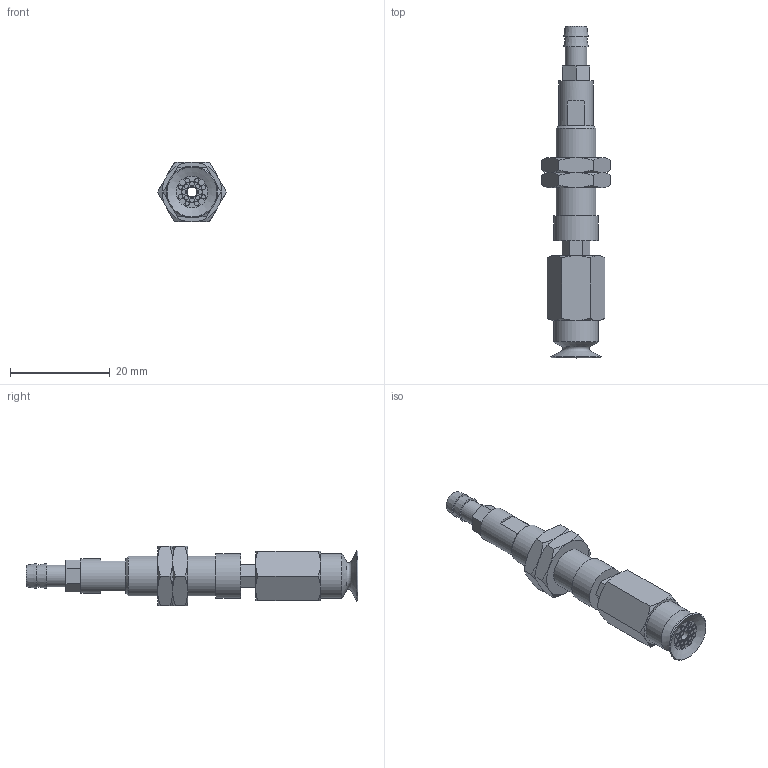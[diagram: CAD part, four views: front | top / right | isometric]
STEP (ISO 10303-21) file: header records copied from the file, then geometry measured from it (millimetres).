
FILE_DESCRIPTION(('STEP AP203'),'1');
FILE_NAME('-T.stp','2025-08-11T08:21:36',(' '),(' '),'Spatial InterOp 3D',' ',' ');
FILE_SCHEMA(('CONFIG_CONTROL_DESIGN'));
Length unit declared in the file: millimetre
Products named in the file (7): BNABPATH-10A-3-※-T; NAPATH-10A-3--F; Nut-10A-S; CONNECTOR-10A-3-T-PA; BPAG-10A-※; ADAPTER; NAPATH-10A-3--M
Assembly tree (7 placements, depth 2):
  BNABPATH-10A-3-※-T
    NAPATH-10A-3--F
    Nut-10A-S  x2
    CONNECTOR-10A-3-T-PA
    BPAG-10A-※
    ADAPTER
    NAPATH-10A-3--M
Bounding box: 13.86 x 66.5 x 12 mm (x, y, z)
Volume: 3555.2 mm3; surface area: 4405.7 mm2
Topology: 7 solids, 7 shells, 173 faces, 347 edges, 215 vertices
Faces by surface type: plane 81, cone 49, cylinder 33, torus 10
Full cylindrical faces by diameter (mm): 0.9 x16, 2 x3, 3 x1, 4 x2, 4.134 x1, 4.3 x1, 5 x1, 6 x2, 7 x1, 7.188 x2, 8 x1, 9 x2
Entity records: 4102 total; most frequent: CARTESIAN_POINT 864, DIRECTION 620, ORIENTED_EDGE 476, AXIS2_PLACEMENT_3D 272, EDGE_LOOP 242, EDGE_CURVE 238, FACE_OUTER_BOUND 192, VERTEX_POINT 180
